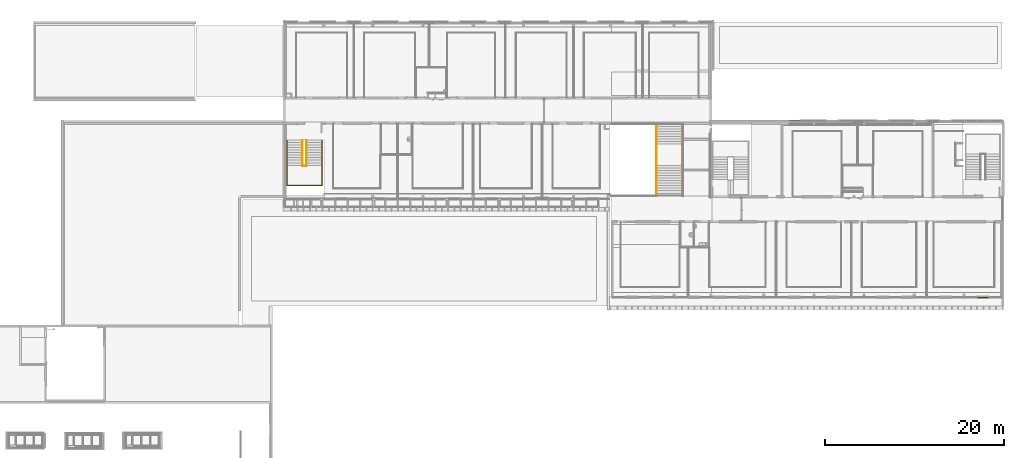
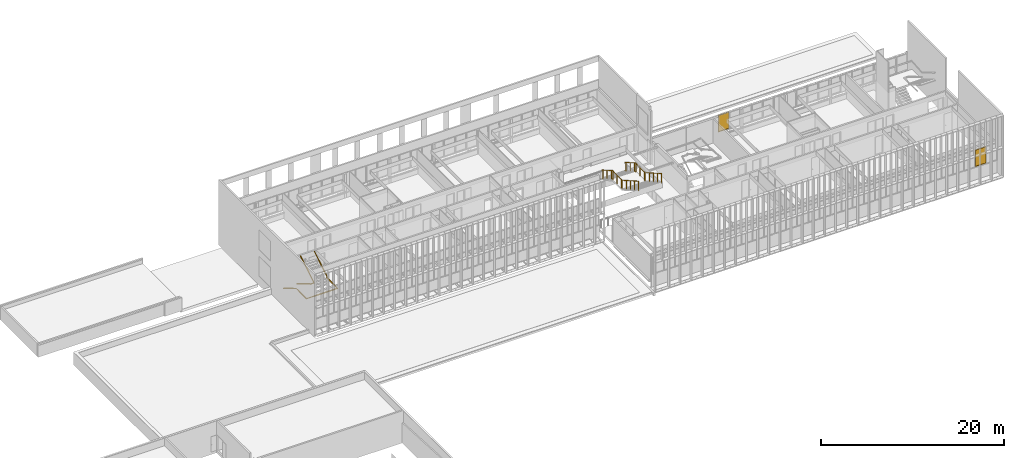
# One storey, part 104 of 106: 4 railings, 2 windows, 4 elements without a shape of their own.
"""IFC2X3 building model written with IfcOpenShell, lengths in centimetres."""

from ifc_helpers import new_model, entity, si_unit, converted_unit, derived_unit, direction, frame, origin, place, context, subcontext, project, spatial, faceted_brep, source, transform, mapped, material, material_list, type_object, type_shapes, element, aggregate, save


model = new_model("IFC2X3")

# Units and contexts
model_context = context("Model", 3, precision=0.001, world=origin(), true_north=direction((6.12303176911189e-17, 1.0)))
body_context = subcontext(model_context, "Body", "Model", "MODEL_VIEW")
ifc_project = project(units=[si_unit("LENGTHUNIT", "METRE", prefix="CENTI"), si_unit("AREAUNIT", "SQUARE_METRE"), si_unit("VOLUMEUNIT", "CUBIC_METRE"), converted_unit("PLANEANGLEUNIT", "DEGREE", entity("IfcRatioMeasure", 0.0174532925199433), si_unit("PLANEANGLEUNIT", "RADIAN"), dimensions=[0, 0, 0, 0, 0, 0, 0]), si_unit("MASSUNIT", "GRAM", prefix="KILO"), derived_unit("MASSDENSITYUNIT", [(si_unit("MASSUNIT", "GRAM", prefix="KILO"), 1), (si_unit("LENGTHUNIT", "METRE"), -3)]), si_unit("TIMEUNIT", "SECOND"), si_unit("FREQUENCYUNIT", "HERTZ"), si_unit("THERMODYNAMICTEMPERATUREUNIT", "DEGREE_CELSIUS"), derived_unit("THERMALTRANSMITTANCEUNIT", [(si_unit("MASSUNIT", "GRAM", prefix="KILO"), 1), (si_unit("THERMODYNAMICTEMPERATUREUNIT", "KELVIN"), -1), (si_unit("TIMEUNIT", "SECOND"), -3)]), derived_unit("VOLUMETRICFLOWRATEUNIT", [(si_unit("LENGTHUNIT", "METRE"), 3), (si_unit("TIMEUNIT", "SECOND"), -1)]), si_unit("ELECTRICCURRENTUNIT", "AMPERE"), si_unit("ELECTRICVOLTAGEUNIT", "VOLT"), si_unit("POWERUNIT", "WATT"), si_unit("FORCEUNIT", "NEWTON", prefix="KILO"), si_unit("ILLUMINANCEUNIT", "LUX"), si_unit("LUMINOUSFLUXUNIT", "LUMEN"), si_unit("LUMINOUSINTENSITYUNIT", "CANDELA"), derived_unit("USERDEFINED", [(si_unit("MASSUNIT", "GRAM", prefix="KILO"), -1), (si_unit("LENGTHUNIT", "METRE"), -2), (si_unit("TIMEUNIT", "SECOND"), 3), (si_unit("LUMINOUSFLUXUNIT", "LUMEN"), 1)]), derived_unit("LINEARVELOCITYUNIT", [(si_unit("LENGTHUNIT", "METRE"), 1), (si_unit("TIMEUNIT", "SECOND"), -1)]), si_unit("PRESSUREUNIT", "PASCAL"), derived_unit("USERDEFINED", [(si_unit("LENGTHUNIT", "METRE"), -2), (si_unit("MASSUNIT", "GRAM", prefix="KILO"), 1), (si_unit("TIMEUNIT", "SECOND"), -2)])], contexts=[model_context])

# Site, building, storey
site_placement = place(None, frame((-2781.94577612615, 7442.24238424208, 0.0)))
site = spatial("IfcSite", under=ifc_project, at=site_placement, Name="Default", CompositionType="ELEMENT")
building_placement = place(site_placement, origin())
building = spatial("IfcBuilding", under=site, at=building_placement, CompositionType="ELEMENT")
storey_placement = place(building_placement, frame((0.0, 0.0, 422.0)))
storey = spatial("IfcBuildingStorey", under=building, at=storey_placement, Name="Toiture - Cuisine", CompositionType="ELEMENT", Elevation=421.999999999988)

# Curtain wall, window
curtain_wall_type = type_object("IfcCurtainWallType", Name="Mur-rideau:07 - mur rideau trame 140 cm", PredefinedType="NOTDEFINED")
curtain_wall_1_placement = place(building_placement, origin())
curtain_wall_1 = element("IfcCurtainWall", 1, at=curtain_wall_1_placement, inside=storey, type_object=curtain_wall_type, Name="Mur-rideau:07 - mur rideau trame 140 cm", ObjectType="Mur-rideau:07 - mur rideau trame 140 cm")
ifc_material_1 = material(Name="Verre")
ifc_material_2 = material(Name="Aluminium")
ifc_material_list_1 = material_list([ifc_material_1, ifc_material_2])
ifc_material_list_2 = material_list([ifc_material_1, ifc_material_2])
window_style_1 = type_object("IfcWindowStyle", Name="Ouvrant R+1  - 140", ConstructionType="NOTDEFINED", OperationType="NOTDEFINED", ParameterTakesPrecedence=False, Sizeable=False, material=ifc_material_list_2)
shared_shape_1 = source(origin(), body_context, "Body", "Brep", [
    faceted_brep([(62.1312500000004, 1.295, 222.262499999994), (62.1312500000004, 1.295, 7.0), (-62.1312500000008, 1.295, 7.0), (-62.1312500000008, 1.295, 222.262499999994), (62.1312500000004, -0.705000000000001, 222.262499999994), (62.1312500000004, -0.705000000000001, 7.0), (-62.1312500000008, -0.705000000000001, 7.0), (-62.1312500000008, -0.705000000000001, 222.262499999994)], [[[0, 1, 2, 3]], [[1, 0, 4, 5]], [[2, 1, 5, 6]], [[3, 2, 6, 7]], [[4, 7, 6, 5]], [[0, 3, 7, 4]]]),
    faceted_brep([(-65.8687499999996, -2.205, 3.0), (-65.8687499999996, 0.794999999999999, 3.0), (66.1312500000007, 0.794999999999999, 3.0), (66.1312500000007, -2.205, 3.0), (66.1312500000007, 0.794999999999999, 226.262499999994), (66.1312500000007, -2.205, 226.262499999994), (-65.8687499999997, 0.794999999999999, 226.262499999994), (64.6312500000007, 0.794999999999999, 224.762499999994), (-64.3687499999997, 0.794999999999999, 224.762499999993), (-64.3687499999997, 0.794999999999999, 4.50000000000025), (64.6312500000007, 0.794999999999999, 4.50000000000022), (62.1312500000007, -2.205, 7.0), (-61.8687499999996, -2.205, 7.0), (-61.8687499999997, -2.205, 222.262499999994), (62.1312500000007, -2.205, 222.262499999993), (-65.8687499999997, -2.205, 226.262499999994), (-61.8687499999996, 2.295, 7.0), (62.1312500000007, 2.295, 7.0), (62.1312500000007, 2.295, 222.262499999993), (64.6312500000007, 2.295, 4.50000000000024), (-64.3687499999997, 2.295, 4.50000000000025), (-64.3687499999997, 2.295, 224.762499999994), (64.6312500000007, 2.295, 224.762499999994), (-61.8687499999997, 2.295, 222.262499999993)], [[[0, 1, 2, 3]], [[3, 2, 4, 5]], [[2, 1, 6, 4], [7, 8, 9, 10]], [[11, 12, 13, 14], [5, 15, 0, 3]], [[16, 12, 11, 17]], [[17, 11, 14, 18]], [[19, 20, 21, 22], [18, 23, 16, 17]], [[9, 20, 19, 10]], [[10, 19, 22, 7]], [[15, 6, 1, 0]], [[23, 13, 12, 16]], [[8, 21, 20, 9]], [[5, 4, 6, 15]], [[18, 14, 13, 23]], [[7, 22, 21, 8]]], outer=[[True], [True], [True, False], [False, True], [True], [True], [True, False], [True], [True], [True], [True], [True], [True], [True], [True]]),
    faceted_brep([(-68.8687499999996, -2.205, 0.0), (-68.8687499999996, 2.295, 0.0), (69.1312500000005, 2.295, 0.0), (69.1312500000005, -2.205, 0.0), (69.1312500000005, 2.295, 229.262499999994), (69.1312500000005, -2.205, 229.262499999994), (-68.8687499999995, 2.295, 229.262499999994), (64.6312500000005, 2.295, 224.762499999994), (-64.3687499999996, 2.295, 224.762499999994), (-64.3687499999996, 2.295, 4.50000000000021), (64.6312500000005, 2.295, 4.50000000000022), (66.1312500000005, -2.205, 3.0), (-65.8687499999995, -2.205, 3.0), (-65.8687499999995, -2.205, 226.262499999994), (66.1312500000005, -2.205, 226.262499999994), (-68.8687499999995, -2.205, 229.262499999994), (-65.8687499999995, 0.794999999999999, 3.0), (66.1312500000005, 0.794999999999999, 3.0), (66.1312500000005, 0.794999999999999, 226.262499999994), (64.6312500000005, 0.794999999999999, 4.50000000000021), (-64.3687499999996, 0.794999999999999, 4.5000000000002), (-64.3687499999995, 0.794999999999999, 224.762499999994), (64.6312500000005, 0.794999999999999, 224.762499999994), (-65.8687499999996, 0.794999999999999, 226.262499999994)], [[[0, 1, 2, 3]], [[3, 2, 4, 5]], [[2, 1, 6, 4], [7, 8, 9, 10]], [[11, 12, 13, 14], [5, 15, 0, 3]], [[16, 12, 11, 17]], [[17, 11, 14, 18]], [[19, 20, 21, 22], [18, 23, 16, 17]], [[9, 20, 19, 10]], [[10, 19, 22, 7]], [[15, 6, 1, 0]], [[23, 13, 12, 16]], [[8, 21, 20, 9]], [[5, 4, 6, 15]], [[18, 14, 13, 23]], [[7, 22, 21, 8]]], outer=[[True], [True], [True, False], [False, True], [True], [True], [False, True], [True], [True], [True], [True], [True], [True], [True], [True]]),
])
type_shapes(window_style_1, [shared_shape_1])
window_1_placement = place(curtain_wall_1_placement, frame((-620.299882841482, -3046.51349958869, 509.618750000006)))
window_1 = element("IfcWindow", 2, at=window_1_placement, type_object=window_style_1, material=ifc_material_list_1, Name="Ouvrant vitré RDC toute hauteur.0023:Ouvrant R+1  - 140", ObjectType="Ouvrant vitré RDC toute hauteur.0023:Ouvrant R+1  - 140", OverallHeight=229.262499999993, OverallWidth=138.262500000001, context=body_context, shape_type="MappedRepresentation", body=[
    mapped(shared_shape_1, transform((0.0, 0.0, 0.0), scale=1.0)),
])
aggregate(curtain_wall_1, [window_1])

curtain_wall_2_placement = place(building_placement, origin())
curtain_wall_2 = element("IfcCurtainWall", 3, at=curtain_wall_2_placement, inside=storey, type_object=curtain_wall_type, Name="Mur-rideau:07 - mur rideau trame 140 cm", ObjectType="Mur-rideau:07 - mur rideau trame 140 cm")
ifc_material_list_3 = material_list([ifc_material_1, ifc_material_2])
ifc_material_list_4 = material_list([ifc_material_1, ifc_material_2])
window_style_2 = type_object("IfcWindowStyle", Name="Ouvrant R+1  - 140", ConstructionType="NOTDEFINED", OperationType="NOTDEFINED", ParameterTakesPrecedence=False, Sizeable=False, material=ifc_material_list_4)
shared_shape_2 = source(origin(), body_context, "Body", "Brep", [
    faceted_brep([(60.50625001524, 1.295, 222.2625), (60.50625001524, 1.295, 7.0), (-60.5062500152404, 1.295, 7.0), (-60.5062500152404, 1.295, 222.2625), (60.50625001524, -0.705000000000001, 222.2625), (60.50625001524, -0.705000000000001, 7.0), (-60.5062500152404, -0.705000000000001, 7.0), (-60.5062500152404, -0.705000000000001, 222.2625)], [[[0, 1, 2, 3]], [[1, 0, 4, 5]], [[2, 1, 5, 6]], [[3, 2, 6, 7]], [[4, 7, 6, 5]], [[0, 3, 7, 4]]]),
    faceted_brep([(-67.4937499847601, -2.205, 3.0), (-67.4937499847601, 0.794999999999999, 3.0), (64.5062500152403, 0.794999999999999, 3.0), (64.5062500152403, -2.205, 3.0), (64.5062500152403, 0.794999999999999, 226.2625), (64.5062500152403, -2.205, 226.2625), (-67.4937499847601, 0.794999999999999, 226.2625), (63.0062500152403, 0.794999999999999, 224.7625), (-65.9937499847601, 0.794999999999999, 224.7625), (-65.9937499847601, 0.794999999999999, 4.50000000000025), (63.0062500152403, 0.794999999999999, 4.50000000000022), (60.5062500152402, -2.205, 7.0), (-63.4937499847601, -2.205, 7.0), (-63.4937499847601, -2.205, 222.2625), (60.5062500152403, -2.205, 222.2625), (-67.4937499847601, -2.205, 226.2625), (-63.4937499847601, 2.295, 7.0), (60.5062500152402, 2.295, 7.0), (60.5062500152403, 2.295, 222.2625), (63.0062500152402, 2.295, 4.50000000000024), (-65.9937499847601, 2.295, 4.50000000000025), (-65.9937499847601, 2.295, 224.7625), (63.0062500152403, 2.295, 224.7625), (-63.4937499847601, 2.295, 222.2625)], [[[0, 1, 2, 3]], [[3, 2, 4, 5]], [[2, 1, 6, 4], [7, 8, 9, 10]], [[11, 12, 13, 14], [5, 15, 0, 3]], [[16, 12, 11, 17]], [[17, 11, 14, 18]], [[19, 20, 21, 22], [18, 23, 16, 17]], [[9, 20, 19, 10]], [[10, 19, 22, 7]], [[15, 6, 1, 0]], [[23, 13, 12, 16]], [[8, 21, 20, 9]], [[5, 4, 6, 15]], [[18, 14, 13, 23]], [[7, 22, 21, 8]]], outer=[[True], [True], [True, False], [False, True], [True], [True], [True, False], [True], [True], [True], [True], [True], [True], [True], [True]]),
    faceted_brep([(-70.49374998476, -2.205, 0.0), (-70.49374998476, 2.295, 0.0), (67.5062500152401, 2.295, 0.0), (67.5062500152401, -2.205, 0.0), (67.5062500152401, 2.295, 229.2625), (67.5062500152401, -2.205, 229.2625), (-70.49374998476, 2.295, 229.2625), (63.0062500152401, 2.295, 224.7625), (-65.99374998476, 2.295, 224.7625), (-65.99374998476, 2.295, 4.50000000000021), (63.0062500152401, 2.295, 4.50000000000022), (64.5062500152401, -2.205, 3.0), (-67.49374998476, -2.205, 3.0), (-67.49374998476, -2.205, 226.2625), (64.5062500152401, -2.205, 226.2625), (-70.49374998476, -2.205, 229.2625), (-67.49374998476, 0.794999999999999, 3.0), (64.5062500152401, 0.794999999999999, 3.0), (64.5062500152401, 0.794999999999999, 226.2625), (63.0062500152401, 0.794999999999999, 4.50000000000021), (-65.99374998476, 0.794999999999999, 4.5000000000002), (-65.99374998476, 0.794999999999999, 224.7625), (63.0062500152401, 0.794999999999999, 224.7625), (-67.49374998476, 0.794999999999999, 226.2625)], [[[0, 1, 2, 3]], [[3, 2, 4, 5]], [[2, 1, 6, 4], [7, 8, 9, 10]], [[11, 12, 13, 14], [5, 15, 0, 3]], [[16, 12, 11, 17]], [[17, 11, 14, 18]], [[19, 20, 21, 22], [18, 23, 16, 17]], [[9, 20, 19, 10]], [[10, 19, 22, 7]], [[15, 6, 1, 0]], [[23, 13, 12, 16]], [[8, 21, 20, 9]], [[5, 4, 6, 15]], [[18, 14, 13, 23]], [[7, 22, 21, 8]]], outer=[[True], [True], [True, False], [False, True], [True], [True], [False, True], [True], [True], [True], [True], [True], [True], [True], [True]]),
])
type_shapes(window_style_2, [shared_shape_2])
window_2_placement = place(curtain_wall_2_placement, frame((-2717.67488285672, -1073.7999999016, 509.61875)))
window_2 = element("IfcWindow", 4, at=window_2_placement, type_object=window_style_2, material=ifc_material_list_3, Name="Ouvrant vitré RDC toute hauteur.0023:Ouvrant R+1  - 140", ObjectType="Ouvrant vitré RDC toute hauteur.0023:Ouvrant R+1  - 140", OverallHeight=229.2625, OverallWidth=138.0, context=body_context, shape_type="MappedRepresentation", body=[
    mapped(shared_shape_2, transform((0.0, 0.0, 0.0), scale=1.0)),
])
aggregate(curtain_wall_2, [window_2])

# Stair, railings
stair_1_placement = place(building_placement, frame((0.0, 0.0, 422.0)))
stair_1 = element("IfcStair", 5, at=stair_1_placement, inside=storey, Name="Escalier coulé sur place:Escalier", ObjectType="Escalier coulé sur place:Monobloc", ShapeType="NOTDEFINED")
railing_1_placement = place(stair_1_placement, frame((-8389.19987766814, -1797.8799999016, 97.8808635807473)))
railing_1 = element("IfcRailing", 6, at=railing_1_placement, Name="Garde-corps:Garde-corps 1", ObjectType="Garde-corps:Garde-corps 1", PredefinedType="NOTDEFINED", context=body_context, shape_type="Brep", body=[
    faceted_brep([(5.08000000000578, 507.880000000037, 8.88104118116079), (5.08000000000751, 507.880000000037, 0.0), (0.0, 507.880000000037, 0.0), (0.0, 507.880000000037, 8.88104118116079), (5.08000000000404, 227.880000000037, 176.500088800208), (5.08000000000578, 225.773488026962, 168.880088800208), (0.0, 225.773488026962, 168.880088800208), (0.0, 227.880000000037, 176.500088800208), (5.08000000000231, 5.08000000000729, 176.500088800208), (5.08000000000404, 5.08000000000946, 168.880088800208), (0.0, 0.0, 168.880088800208), (0.0, 0.0, 176.500088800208), (392.620000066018, 5.08000000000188, 176.500088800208), (392.620000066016, 5.08000000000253, 168.880088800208), (397.700000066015, 0.0, 168.880088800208), (397.700000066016, 0.0, 176.500088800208), (392.620000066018, 224.070000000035, 176.500088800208), (392.620000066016, 231.690000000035, 168.880088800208), (397.700000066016, 231.690000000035, 168.880088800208), (397.700000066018, 224.070000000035, 176.500088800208), (392.620000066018, 224.070000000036, 190.981177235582), (392.620000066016, 231.690000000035, 186.661768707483), (397.700000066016, 231.690000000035, 186.661768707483), (397.700000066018, 224.070000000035, 190.981177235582), (392.620000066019, 507.880000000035, 360.88104118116), (397.700000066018, 507.880000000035, 360.88104118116), (397.700000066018, 507.880000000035, 352.0), (392.620000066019, 507.880000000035, 352.0)], [[[0, 1, 2, 3]], [[1, 0, 4, 5]], [[2, 1, 5, 6]], [[3, 2, 6, 7]], [[0, 3, 7, 4]], [[5, 4, 8, 9]], [[6, 5, 9, 10]], [[7, 6, 10, 11]], [[4, 7, 11, 8]], [[9, 8, 12, 13]], [[10, 9, 13, 14]], [[11, 10, 14, 15]], [[8, 11, 15, 12]], [[13, 12, 16, 17]], [[14, 13, 17, 18]], [[15, 14, 18, 19]], [[12, 15, 19, 16]], [[17, 16, 20, 21]], [[18, 17, 21, 22]], [[19, 18, 22, 23]], [[16, 19, 23, 20]], [[24, 25, 26, 27]], [[21, 20, 24, 27]], [[22, 21, 27, 26]], [[23, 22, 26, 25]], [[20, 23, 25, 24]]]),
])
railing_2_placement = place(stair_1_placement, frame((-8214.27987766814, -1580.07999990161, 97.8808635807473)))
railing_2 = element("IfcRailing", 7, at=railing_2_placement, Name="Garde-corps:Garde-corps 1", ObjectType="Garde-corps:Garde-corps 1", PredefinedType="NOTDEFINED", context=body_context, shape_type="Brep", body=[
    faceted_brep([(0.0, 290.080000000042, 8.88104118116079), (5.08000000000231, 290.080000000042, 8.88104118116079), (5.08000000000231, 290.080000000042, 0.0), (0.0, 290.080000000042, 0.0), (0.0, 10.0800000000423, 176.500088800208), (5.08000000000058, 10.0800000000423, 176.500088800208), (5.08000000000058, 7.97348802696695, 168.880088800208), (0.0, 7.97348802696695, 168.880088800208), (5.08000000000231, 5.08000000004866, 176.500088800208), (0.0, 0.0, 176.500088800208), (41.5100000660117, 0.0, 176.500088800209), (41.5100000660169, 5.08000000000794, 176.500088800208), (5.08000000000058, 5.08000000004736, 168.880088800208), (49.1300000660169, 5.07999999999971, 168.880088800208), (0.0, 0.0, 168.880088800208), (49.1300000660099, 0.0, 168.880088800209), (41.5100000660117, 0.0, 178.346666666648), (49.1300000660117, 0.0, 178.346666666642), (49.1300000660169, 5.07999999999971, 181.387755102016), (41.5100000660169, 5.08000000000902, 181.387755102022)], [[[0, 1, 2, 3]], [[1, 0, 4, 5]], [[2, 1, 5, 6]], [[3, 2, 6, 7]], [[0, 3, 7, 4]], [[8, 9, 10, 11]], [[12, 8, 11, 13]], [[14, 12, 13, 15]], [[9, 14, 15, 10]], [[16, 17, 18, 19]], [[11, 10, 16, 19]], [[13, 11, 19, 18]], [[15, 13, 18, 17]], [[10, 15, 17, 16]], [[5, 4, 9, 8]], [[6, 5, 8, 12]], [[7, 6, 12, 14]], [[4, 7, 14, 9]]]),
    faceted_brep([(47.8600000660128, 2.54000000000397, 188.748252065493), (42.780000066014, 2.54000000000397, 188.748252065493), (42.780000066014, 2.54000000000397, 179.867210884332), (47.8600000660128, 2.54000000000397, 179.867210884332), (47.8600000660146, 290.080000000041, 360.881041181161), (47.8600000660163, 290.080000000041, 352.0), (42.7800000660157, 290.080000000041, 352.0), (42.780000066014, 290.080000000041, 360.881041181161)], [[[0, 1, 2, 3]], [[4, 5, 6, 7]], [[1, 0, 4, 7]], [[2, 1, 7, 6]], [[3, 2, 6, 5]], [[0, 3, 5, 4]]]),
])
aggregate(stair_1, [railing_1, railing_2])

stair_2_placement = place(building_placement, frame((0.0, 0.0, 422.0)))
stair_2 = element("IfcStair", 8, at=stair_2_placement, inside=storey, Name="Escalier coulé sur place:Escalier", ObjectType="Escalier coulé sur place:Monobloc", ShapeType="NOTDEFINED")
ifc_material_3 = material(Name="Métal - Acier inoxydable, poli")
railing_3_placement = place(stair_2_placement, frame((-4269.95987968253, -1910.47903364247, 16.0)))
railing_3 = element("IfcRailing", 9, at=railing_3_placement, material=ifc_material_3, Name="Garde-corps:Garde corps 1A0cmHT", ObjectType="Garde-corps:Garde corps 1A0cmHT", PredefinedType="NOTDEFINED", context=body_context, shape_type="Brep", body=[
    faceted_brep([(5.0, 1.80000000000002, 320.0), (5.0, 3.0, 320.0), (5.0, 3.0, 443.938410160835), (5.0, 1.80000000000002, 444.624124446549), (0.0, 1.80000000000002, 320.0), (0.0, 1.80000000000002, 444.624124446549), (0.0, 3.0, 443.938410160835), (0.0, 3.0, 320.0)], [[[0, 1, 2, 3]], [[4, 5, 6, 7]], [[1, 0, 4, 7]], [[2, 1, 7, 6]], [[3, 2, 6, 5]], [[0, 3, 5, 4]]]),
    faceted_brep([(5.0, 91.8000000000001, 272.0), (5.0, 93.0, 272.0), (5.0, 93.0, 392.509838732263), (5.0, 91.8000000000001, 393.195553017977), (0.0, 91.8000000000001, 272.0), (0.0, 91.8000000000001, 393.195553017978), (0.0, 93.0, 392.509838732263), (0.0, 93.0, 272.0)], [[[0, 1, 2, 3]], [[4, 5, 6, 7]], [[1, 0, 4, 7]], [[2, 1, 7, 6]], [[3, 2, 6, 5]], [[0, 3, 5, 4]]]),
    faceted_brep([(5.0, 181.8, 224.0), (5.0, 183.0, 224.0), (5.0, 183.0, 341.081267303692), (5.0, 181.8, 341.766981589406), (0.0, 181.8, 224.0), (0.0, 181.8, 341.766981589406), (0.0, 183.0, 341.081267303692), (0.0, 183.0, 224.0)], [[[0, 1, 2, 3]], [[4, 5, 6, 7]], [[1, 0, 4, 7]], [[2, 1, 7, 6]], [[3, 2, 6, 5]], [[0, 3, 5, 4]]]),
    faceted_brep([(5.0, 271.8, 176.0), (5.0, 273.0, 176.0), (5.0, 273.0, 289.65269587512), (5.0, 271.8, 290.338410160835), (0.0, 271.8, 176.0), (0.0, 271.8, 290.338410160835), (0.0, 273.0, 289.65269587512), (0.0, 273.0, 176.0)], [[[0, 1, 2, 3]], [[4, 5, 6, 7]], [[1, 0, 4, 7]], [[2, 1, 7, 6]], [[3, 2, 6, 5]], [[0, 3, 5, 4]]]),
    faceted_brep([(5.0, 361.8, 128.0), (5.0, 363.0, 128.0), (5.0, 363.0, 238.224124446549), (5.0, 361.8, 238.909838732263), (0.0, 361.8, 128.0), (0.0, 361.8, 238.909838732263), (0.0, 363.0, 238.224124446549), (0.0, 363.0, 128.0)], [[[0, 1, 2, 3]], [[4, 5, 6, 7]], [[1, 0, 4, 7]], [[2, 1, 7, 6]], [[3, 2, 6, 5]], [[0, 3, 5, 4]]]),
    faceted_brep([(5.0, 379.839516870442, 128.0), (5.0, 381.039516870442, 128.0), (5.0, 381.039516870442, 237.5), (5.0, 379.839516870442, 237.5), (0.0, 379.839516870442, 128.0), (0.0, 379.839516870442, 237.5), (0.0, 381.039516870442, 237.5), (0.0, 381.039516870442, 128.0)], [[[0, 1, 2, 3]], [[4, 5, 6, 7]], [[1, 0, 4, 7]], [[2, 1, 7, 6]], [[3, 2, 6, 5]], [[0, 3, 5, 4]]]),
    faceted_brep([(5.0, 469.839516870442, 128.0), (5.0, 471.039516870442, 128.0), (5.0, 471.039516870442, 237.5), (5.0, 469.839516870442, 237.5), (0.0, 469.839516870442, 128.0), (0.0, 469.839516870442, 237.5), (0.0, 471.039516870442, 237.5), (0.0, 471.039516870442, 128.0)], [[[0, 1, 2, 3]], [[4, 5, 6, 7]], [[1, 0, 4, 7]], [[2, 1, 7, 6]], [[3, 2, 6, 5]], [[0, 3, 5, 4]]]),
    faceted_brep([(5.0, 559.839516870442, 128.0), (5.0, 561.039516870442, 128.0), (5.0, 561.039516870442, 237.5), (5.0, 559.839516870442, 237.5), (0.0, 559.839516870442, 128.0), (0.0, 559.839516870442, 237.5), (0.0, 561.039516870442, 237.5), (0.0, 561.039516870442, 128.0)], [[[0, 1, 2, 3]], [[4, 5, 6, 7]], [[1, 0, 4, 7]], [[2, 1, 7, 6]], [[3, 2, 6, 5]], [[0, 3, 5, 4]]]),
    faceted_brep([(5.0, 597.879033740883, 112.0), (5.0, 599.079033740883, 112.0), (5.0, 599.079033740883, 224.509838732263), (5.0, 597.879033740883, 225.195553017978), (0.0, 597.879033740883, 112.0), (0.0, 597.879033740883, 225.195553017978), (0.0, 599.079033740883, 224.509838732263), (0.0, 599.079033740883, 112.0)], [[[0, 1, 2, 3]], [[4, 5, 6, 7]], [[1, 0, 4, 7]], [[2, 1, 7, 6]], [[3, 2, 6, 5]], [[0, 3, 5, 4]]]),
    faceted_brep([(5.0, 687.879033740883, 64.0), (5.0, 689.079033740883, 64.0), (5.0, 689.079033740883, 173.081267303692), (5.0, 687.879033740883, 173.766981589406), (0.0, 687.879033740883, 64.0), (0.0, 687.879033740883, 173.766981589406), (0.0, 689.079033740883, 173.081267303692), (0.0, 689.079033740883, 64.0)], [[[0, 1, 2, 3]], [[4, 5, 6, 7]], [[1, 0, 4, 7]], [[2, 1, 7, 6]], [[3, 2, 6, 5]], [[0, 3, 5, 4]]]),
    faceted_brep([(5.0, 777.879033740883, 0.0), (5.0, 779.079033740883, 0.0), (5.0, 779.079033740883, 121.65269587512), (5.0, 777.879033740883, 122.338410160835), (0.0, 777.879033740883, 0.0), (0.0, 777.879033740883, 122.338410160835), (0.0, 779.079033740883, 121.65269587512), (0.0, 779.079033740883, 0.0)], [[[0, 1, 2, 3]], [[4, 5, 6, 7]], [[1, 0, 4, 7]], [[2, 1, 7, 6]], [[3, 2, 6, 5]], [[0, 3, 5, 4]]]),
    faceted_brep([(5.0, 575.879033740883, 112.0), (5.0, 577.079033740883, 112.0), (5.0, 577.079033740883, 128.0), (5.0, 575.879033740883, 128.0), (0.0, 575.879033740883, 112.0), (0.0, 575.879033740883, 128.0), (0.0, 577.079033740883, 128.0), (0.0, 577.079033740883, 112.0)], [[[0, 1, 2, 3]], [[4, 5, 6, 7]], [[1, 0, 4, 7]], [[2, 1, 7, 6]], [[3, 2, 6, 5]], [[0, 3, 5, 4]]]),
    faceted_brep([(5.0, 0.0, 320.0), (5.0, 1.19999999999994, 320.0), (5.0, 1.19999999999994, 335.885714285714), (5.0, 0.0, 335.885714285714), (0.0, 0.0, 320.0), (0.0, 0.0, 335.885714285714), (0.0, 1.19999999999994, 335.885714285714), (0.0, 1.19999999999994, 320.0)], [[[0, 1, 2, 3]], [[4, 5, 6, 7]], [[1, 0, 4, 7]], [[2, 1, 7, 6]], [[3, 2, 6, 5]], [[0, 3, 5, 4]]]),
    faceted_brep([(5.0, 799.679033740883, 0.0), (5.0, 800.879033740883, 0.0), (5.0, 800.879033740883, 0.114285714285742), (5.0, 799.679033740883, 0.114285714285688), (0.0, 799.679033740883, 0.0), (0.0, 799.679033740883, 0.114285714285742), (0.0, 800.879033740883, 0.114285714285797), (0.0, 800.879033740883, 0.0)], [[[0, 1, 2, 3]], [[4, 5, 6, 7]], [[1, 0, 4, 7]], [[2, 1, 7, 6]], [[3, 2, 6, 5]], [[0, 3, 5, 4]]]),
    faceted_brep([(0.0, 800.479033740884, 109.42412444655), (0.0, 800.479033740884, 110.57587555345), (5.0, 800.479033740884, 110.57587555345), (5.0, 800.479033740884, 109.42412444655), (5.0, 576.611815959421, 238.5), (5.0, 576.346251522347, 237.5), (0.0, 576.346251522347, 237.5), (5.0, 364.532782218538, 238.5), (5.0, 364.267217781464, 237.5), (0.0, 364.267217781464, 237.5), (0.0, 0.400000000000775, 445.42412444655), (5.0, 0.400000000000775, 445.42412444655), (5.0, 0.400000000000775, 446.57587555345), (0.0, 0.400000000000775, 446.57587555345), (0.0, 576.611815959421, 238.5), (0.0, 364.532782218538, 238.5)], [[[0, 1, 2, 3]], [[3, 2, 4, 5]], [[0, 3, 5, 6]], [[5, 4, 7, 8]], [[6, 5, 8, 9]], [[10, 11, 12, 13]], [[8, 7, 12, 11]], [[9, 8, 11, 10]], [[1, 0, 6, 14]], [[2, 1, 14, 4]], [[14, 6, 9, 15]], [[4, 14, 15, 7]], [[15, 9, 10, 13]], [[7, 15, 13, 12]]]),
])
railing_4_placement = place(stair_2_placement, frame((-3980.03987968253, -1910.47903364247, 16.0)))
railing_4 = element("IfcRailing", 10, at=railing_4_placement, material=ifc_material_3, Name="Garde-corps:Garde corps 1A0cmHT", ObjectType="Garde-corps:Garde corps 1A0cmHT", PredefinedType="NOTDEFINED", context=body_context, shape_type="Brep", body=[
    faceted_brep([(0.0, 1.80000000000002, 320.0), (0.0, 1.80000000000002, 444.624124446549), (0.0, 3.0, 443.938410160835), (0.0, 3.0, 320.0), (5.0, 1.80000000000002, 320.0), (5.0, 3.0, 320.0), (5.0, 3.0, 443.938410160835), (5.0, 1.80000000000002, 444.624124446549)], [[[0, 1, 2, 3]], [[4, 5, 6, 7]], [[3, 5, 4, 0]], [[2, 6, 5, 3]], [[1, 7, 6, 2]], [[0, 4, 7, 1]]]),
    faceted_brep([(0.0, 91.8000000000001, 272.0), (0.0, 91.8000000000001, 393.195553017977), (0.0, 93.0, 392.509838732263), (0.0, 93.0, 272.0), (5.0, 91.8000000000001, 272.0), (5.0, 93.0, 272.0), (5.0, 93.0, 392.509838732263), (5.0, 91.8000000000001, 393.195553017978)], [[[0, 1, 2, 3]], [[4, 5, 6, 7]], [[3, 5, 4, 0]], [[2, 6, 5, 3]], [[1, 7, 6, 2]], [[0, 4, 7, 1]]]),
    faceted_brep([(0.0, 181.8, 224.0), (0.0, 181.8, 341.766981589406), (0.0, 183.0, 341.081267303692), (0.0, 183.0, 224.0), (5.0, 181.8, 224.0), (5.0, 183.0, 224.0), (5.0, 183.0, 341.081267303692), (5.0, 181.8, 341.766981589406)], [[[0, 1, 2, 3]], [[4, 5, 6, 7]], [[3, 5, 4, 0]], [[2, 6, 5, 3]], [[1, 7, 6, 2]], [[0, 4, 7, 1]]]),
    faceted_brep([(0.0, 271.8, 176.0), (0.0, 271.8, 290.338410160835), (0.0, 273.0, 289.65269587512), (0.0, 273.0, 176.0), (5.0, 271.8, 176.0), (5.0, 273.0, 176.0), (5.0, 273.0, 289.65269587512), (5.0, 271.8, 290.338410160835)], [[[0, 1, 2, 3]], [[4, 5, 6, 7]], [[3, 5, 4, 0]], [[2, 6, 5, 3]], [[1, 7, 6, 2]], [[0, 4, 7, 1]]]),
    faceted_brep([(0.0, 361.8, 128.0), (0.0, 361.8, 238.909838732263), (0.0, 363.0, 238.224124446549), (0.0, 363.0, 128.0), (5.0, 361.8, 128.0), (5.0, 363.0, 128.0), (5.0, 363.0, 238.224124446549), (5.0, 361.8, 238.909838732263)], [[[0, 1, 2, 3]], [[4, 5, 6, 7]], [[3, 5, 4, 0]], [[2, 6, 5, 3]], [[1, 7, 6, 2]], [[0, 4, 7, 1]]]),
    faceted_brep([(0.0, 379.839516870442, 128.0), (0.0, 379.839516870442, 237.5), (0.0, 381.039516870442, 237.5), (0.0, 381.039516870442, 128.0), (5.0, 379.839516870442, 128.0), (5.0, 381.039516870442, 128.0), (5.0, 381.039516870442, 237.5), (5.0, 379.839516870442, 237.5)], [[[0, 1, 2, 3]], [[4, 5, 6, 7]], [[3, 5, 4, 0]], [[2, 6, 5, 3]], [[1, 7, 6, 2]], [[0, 4, 7, 1]]]),
    faceted_brep([(0.0, 469.839516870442, 128.0), (0.0, 469.839516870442, 237.5), (0.0, 471.039516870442, 237.5), (0.0, 471.039516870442, 128.0), (5.0, 469.839516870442, 128.0), (5.0, 471.039516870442, 128.0), (5.0, 471.039516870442, 237.5), (5.0, 469.839516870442, 237.5)], [[[0, 1, 2, 3]], [[4, 5, 6, 7]], [[3, 5, 4, 0]], [[2, 6, 5, 3]], [[1, 7, 6, 2]], [[0, 4, 7, 1]]]),
    faceted_brep([(0.0, 559.839516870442, 128.0), (0.0, 559.839516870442, 237.5), (0.0, 561.039516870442, 237.5), (0.0, 561.039516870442, 128.0), (5.0, 559.839516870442, 128.0), (5.0, 561.039516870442, 128.0), (5.0, 561.039516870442, 237.5), (5.0, 559.839516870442, 237.5)], [[[0, 1, 2, 3]], [[4, 5, 6, 7]], [[3, 5, 4, 0]], [[2, 6, 5, 3]], [[1, 7, 6, 2]], [[0, 4, 7, 1]]]),
    faceted_brep([(0.0, 597.879033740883, 112.0), (0.0, 597.879033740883, 225.195553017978), (0.0, 599.079033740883, 224.509838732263), (0.0, 599.079033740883, 112.0), (5.0, 597.879033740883, 112.0), (5.0, 599.079033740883, 112.0), (5.0, 599.079033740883, 224.509838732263), (5.0, 597.879033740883, 225.195553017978)], [[[0, 1, 2, 3]], [[4, 5, 6, 7]], [[3, 5, 4, 0]], [[2, 6, 5, 3]], [[1, 7, 6, 2]], [[0, 4, 7, 1]]]),
    faceted_brep([(0.0, 687.879033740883, 64.0), (0.0, 687.879033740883, 173.766981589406), (0.0, 689.079033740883, 173.081267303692), (0.0, 689.079033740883, 64.0), (5.0, 687.879033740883, 64.0), (5.0, 689.079033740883, 64.0), (5.0, 689.079033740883, 173.081267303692), (5.0, 687.879033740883, 173.766981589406)], [[[0, 1, 2, 3]], [[4, 5, 6, 7]], [[3, 5, 4, 0]], [[2, 6, 5, 3]], [[1, 7, 6, 2]], [[0, 4, 7, 1]]]),
    faceted_brep([(0.0, 777.879033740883, 0.0), (0.0, 777.879033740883, 122.338410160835), (0.0, 779.079033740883, 121.65269587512), (0.0, 779.079033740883, 0.0), (5.0, 777.879033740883, 0.0), (5.0, 779.079033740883, 0.0), (5.0, 779.079033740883, 121.65269587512), (5.0, 777.879033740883, 122.338410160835)], [[[0, 1, 2, 3]], [[4, 5, 6, 7]], [[3, 5, 4, 0]], [[2, 6, 5, 3]], [[1, 7, 6, 2]], [[0, 4, 7, 1]]]),
    faceted_brep([(0.0, 575.879033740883, 112.0), (0.0, 575.879033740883, 128.0), (0.0, 577.079033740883, 128.0), (0.0, 577.079033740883, 112.0), (5.0, 575.879033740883, 112.0), (5.0, 577.079033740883, 112.0), (5.0, 577.079033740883, 128.0), (5.0, 575.879033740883, 128.0)], [[[0, 1, 2, 3]], [[4, 5, 6, 7]], [[3, 5, 4, 0]], [[2, 6, 5, 3]], [[1, 7, 6, 2]], [[0, 4, 7, 1]]]),
    faceted_brep([(0.0, 0.0, 320.0), (0.0, 0.0, 335.885714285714), (0.0, 1.19999999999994, 335.885714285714), (0.0, 1.19999999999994, 320.0), (5.0, 0.0, 320.0), (5.0, 1.19999999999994, 320.0), (5.0, 1.19999999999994, 335.885714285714), (5.0, 0.0, 335.885714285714)], [[[0, 1, 2, 3]], [[4, 5, 6, 7]], [[3, 5, 4, 0]], [[2, 6, 5, 3]], [[1, 7, 6, 2]], [[0, 4, 7, 1]]]),
    faceted_brep([(0.0, 799.679033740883, 0.0), (0.0, 799.679033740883, 0.114285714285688), (0.0, 800.879033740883, 0.114285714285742), (0.0, 800.879033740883, 0.0), (5.0, 799.679033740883, 0.0), (5.0, 800.879033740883, 0.0), (5.0, 800.879033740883, 0.114285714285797), (5.0, 799.679033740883, 0.114285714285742)], [[[0, 1, 2, 3]], [[4, 5, 6, 7]], [[3, 5, 4, 0]], [[2, 6, 5, 3]], [[1, 7, 6, 2]], [[0, 4, 7, 1]]]),
    faceted_brep([(5.0, 800.479033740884, 109.42412444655), (0.0, 800.479033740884, 109.42412444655), (0.0, 800.479033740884, 110.57587555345), (5.0, 800.479033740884, 110.57587555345), (5.0, 576.346251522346, 237.5), (0.0, 576.346251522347, 237.5), (0.0, 576.611815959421, 238.5), (5.0, 364.267217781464, 237.5), (0.0, 364.267217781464, 237.5), (0.0, 364.532782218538, 238.5), (5.0, 0.400000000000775, 445.42412444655), (5.0, 0.400000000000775, 446.57587555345), (0.0, 0.400000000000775, 446.57587555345), (0.0, 0.400000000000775, 445.42412444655), (5.0, 576.611815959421, 238.5), (5.0, 364.532782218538, 238.5)], [[[0, 1, 2, 3]], [[1, 0, 4, 5]], [[2, 1, 5, 6]], [[5, 4, 7, 8]], [[6, 5, 8, 9]], [[10, 11, 12, 13]], [[8, 7, 10, 13]], [[9, 8, 13, 12]], [[3, 2, 6, 14]], [[0, 3, 14, 4]], [[14, 6, 9, 15]], [[4, 14, 15, 7]], [[15, 9, 12, 11]], [[7, 15, 11, 10]]]),
])
aggregate(stair_2, [railing_3, railing_4])

save(model, "model.ifc")
